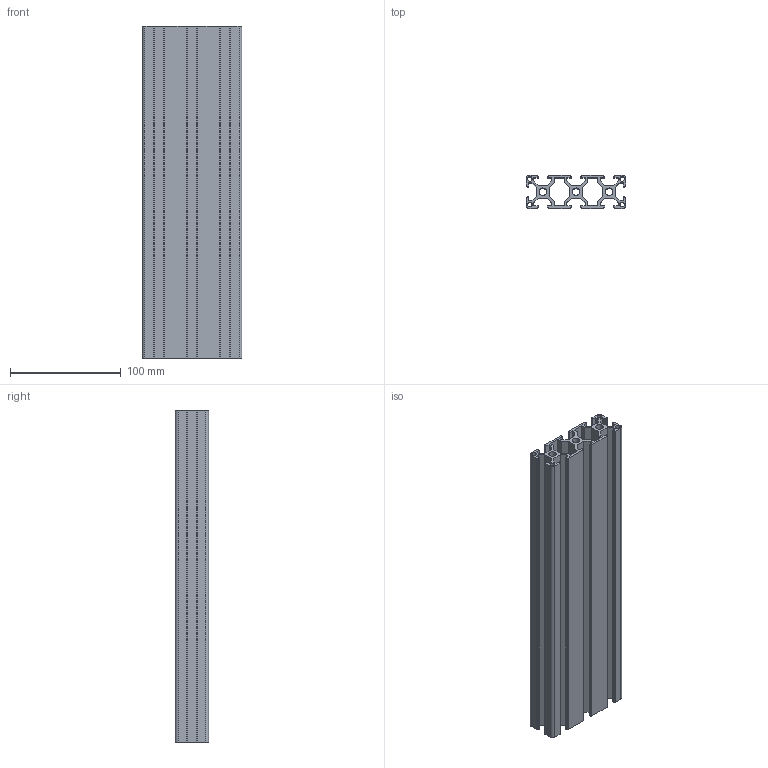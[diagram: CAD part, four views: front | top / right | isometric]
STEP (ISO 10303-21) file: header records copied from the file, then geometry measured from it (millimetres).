
FILE_DESCRIPTION (( 'STEP AP203' ), '1' );
FILE_NAME ('15-CE-3090-8.STEP', '2015-07-07T03:00:01', ( '' ), ( '' ), 'SwSTEP 2.0', 'SolidWorks 2013', '' );
FILE_SCHEMA (( 'CONFIG_CONTROL_DESIGN' ));
Length unit declared in the file: millimetre
Products named in the file (1): 15-CE-3090-8
Bounding box: 90 x 30 x 300 mm (x, y, z)
Volume: 255537.6 mm3; surface area: 227175.2 mm2
Topology: 1 solids, 1 shells, 160 faces, 474 edges, 316 vertices
Faces by surface type: plane 142, cylinder 18
Entity records: 5387 total; most frequent: CARTESIAN_POINT 951, ORIENTED_EDGE 948, DIRECTION 832, EDGE_CURVE 474, VECTOR 438, LINE 438, VERTEX_POINT 316, AXIS2_PLACEMENT_3D 197
